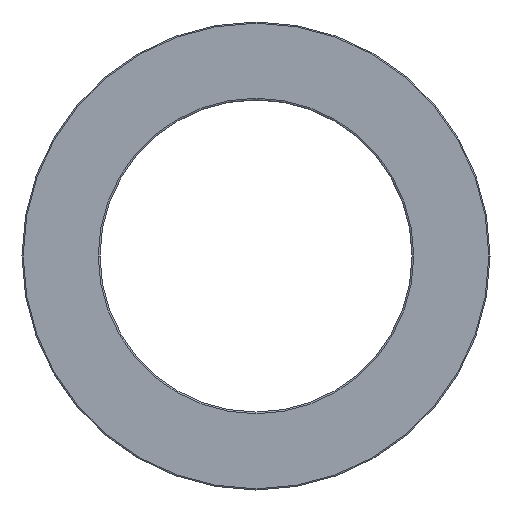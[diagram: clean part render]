
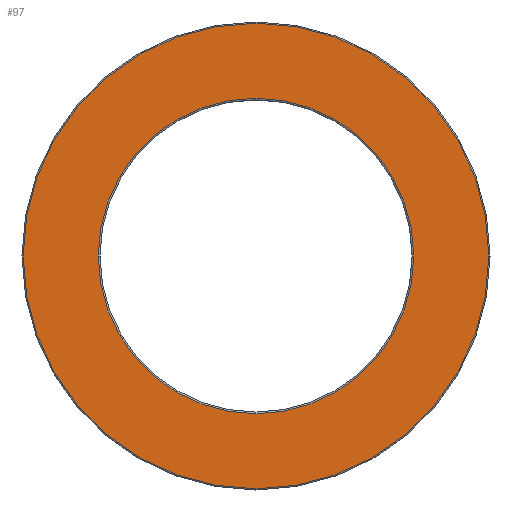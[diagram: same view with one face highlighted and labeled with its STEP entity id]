
A CAD part, left-side view. The second image highlights one B-rep face of the part: STEP entity #97.
In plain terms, the highlighted planar face has unit normal (-1, 0, 0).
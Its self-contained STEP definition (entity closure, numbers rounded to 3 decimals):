
#97=ADVANCED_FACE('',(#166,#167),#168,.F.);
#166=FACE_BOUND('',#238,.T.);
#167=FACE_OUTER_BOUND('',#239,.T.);
#168=PLANE('',#240);
#238=EDGE_LOOP('',(#354));
#239=EDGE_LOOP('',(#355));
#240=AXIS2_PLACEMENT_3D('',#356,#357,#358);
#354=ORIENTED_EDGE('',*,*,#386,.F.);
#355=ORIENTED_EDGE('',*,*,#387,.T.);
#356=CARTESIAN_POINT('',(0.0,74.619,0.0));
#357=DIRECTION('',(1.0,0.0,0.0));
#358=DIRECTION('',(0.0,0.0,-1.0));
#386=EDGE_CURVE('',#432,#432,#433,.T.);
#387=EDGE_CURVE('',#434,#434,#435,.T.);
#432=VERTEX_POINT('',#480);
#433=CIRCLE('',#481,50.558);
#434=VERTEX_POINT('',#482);
#435=CIRCLE('',#483,74.619);
#480=CARTESIAN_POINT('',(0.0,0.0,50.558));
#481=AXIS2_PLACEMENT_3D('',#550,#551,#552);
#482=CARTESIAN_POINT('',(0.0,0.0,74.619));
#483=AXIS2_PLACEMENT_3D('',#553,#554,#555);
#550=CARTESIAN_POINT('',(0.0,0.0,0.0));
#551=DIRECTION('',(-1.0,0.0,0.0));
#552=DIRECTION('',(0.0,0.0,1.0));
#553=CARTESIAN_POINT('',(0.0,0.0,0.0));
#554=DIRECTION('',(-1.0,0.0,0.0));
#555=DIRECTION('',(0.0,0.0,1.0));
